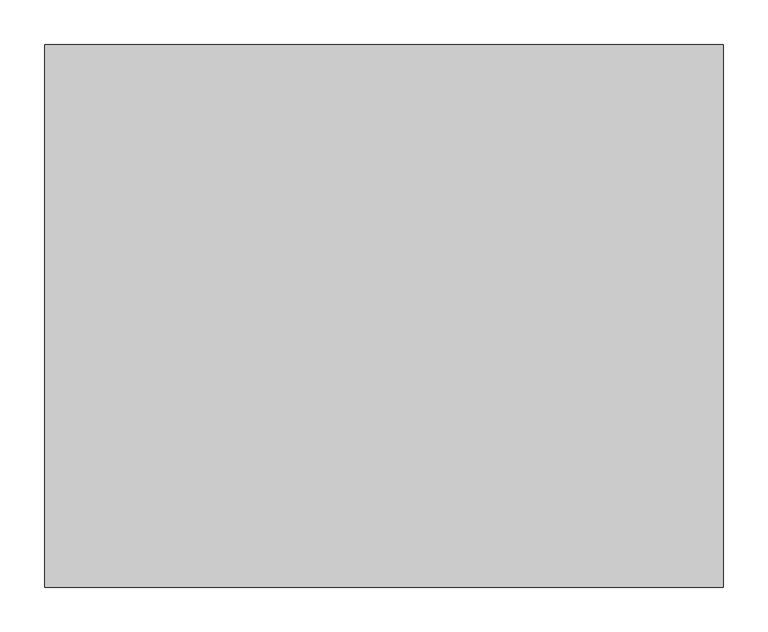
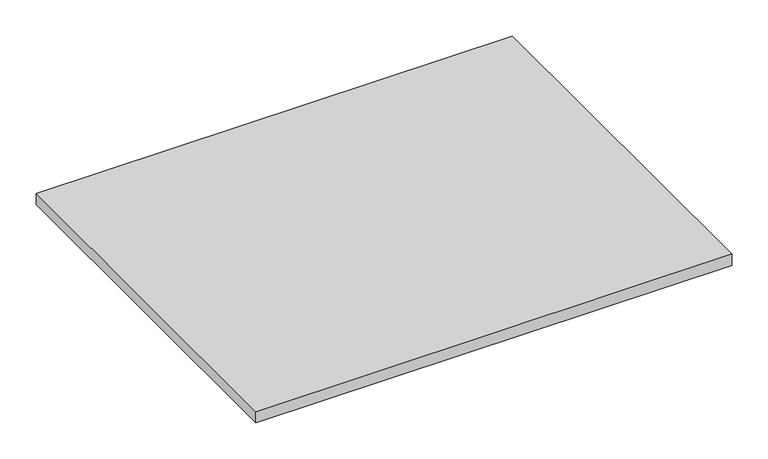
"""IFC4 building model written with IfcOpenShell, lengths in millimetres: furniture geometry, Steelcase - Universal Storage - Adjustable Steel Standard Shelf : 24D x 30W."""

from ifc_helpers import new_model, si_unit, frame, origin, place, context, project, spatial, polyline, outline, extrude, source, transform, mapped, element, save


def furniture_ad8b72a8(model_context):
    return source(origin(), model_context, "Body", "SweptSolid", [
        extrude(outline(polyline([(762.0, 0.0), (762.0, -609.6), (0.0, -609.6), (0.0, 0.0), (762.0, 0.0)])), frame((0.0, 0.0, 285.75), z_axis=(0.0, 0.0, 1.0), x_axis=(1.0, 0.0, 0.0)), (0.0, 0.0, 1.0), 19.05),
    ])


if __name__ == "__main__":
    model = new_model("IFC4")
    model_context = context("Model", 3, world=origin())
    ifc_project = project(units=[si_unit("LENGTHUNIT", "METRE", prefix="MILLI")], contexts=[model_context])
    site = spatial("IfcSite", under=ifc_project)
    building = spatial("IfcBuilding", under=site)
    placement = place(None, origin())
    furniture_shape = furniture_ad8b72a8(model_context)
    element("IfcFurniture", 1, ObjectType="Steelcase - Universal Storage - Adjustable Steel Standard Shelf : 24D x 30W", at=placement, inside=building, context=model_context, shape_type="MappedRepresentation", body=[
        mapped(furniture_shape, transform((0.0, 0.0, 0.0), x_axis=(1.0, 0.0, 0.0), y_axis=(0.0, 1.0, 0.0), z_axis=(0.0, 0.0, 1.0))),
    ])
    save(model, "model.ifc")
